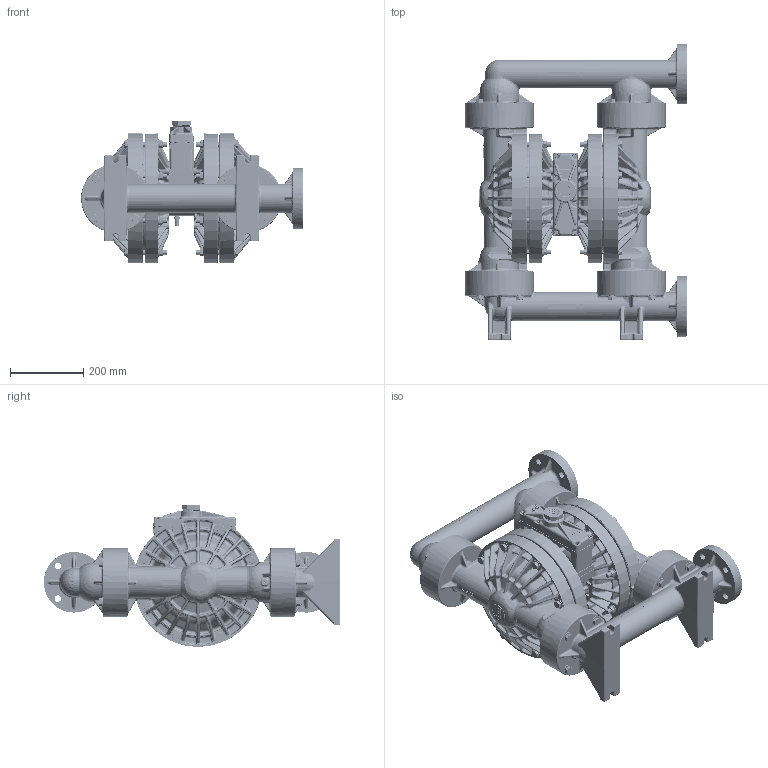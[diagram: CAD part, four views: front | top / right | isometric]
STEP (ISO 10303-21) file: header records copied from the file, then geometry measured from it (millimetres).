
FILE_DESCRIPTION (( 'STEP AP203' ), '1' );
FILE_NAME ('PS800_ADV_POLY_DIN.STEP', '2022-06-10T06:05:10', ( '' ), ( '' ), 'SwSTEP 2.0', 'SolidWorks 2019', '' );
FILE_SCHEMA (( 'CONFIG_CONTROL_DESIGN' ));
Products named in the file (1): PS800_ADV_POLY_DIN
Bounding box: 603.76 x 806.83 x 387.42 mm (x, y, z)
Volume: 40947760.9 mm3; surface area: 2488533.1 mm2
Topology: 1 solids, 1 shells, 16773 faces, 40196 edges, 23779 vertices
Faces by surface type: bspline 6091, plane 4853, cylinder 1946, cone 1428, torus 1399, sphere 1056
Entity records: 929282 total; most frequent: CARTESIAN_POINT 587384, ORIENTED_EDGE 79816, DIRECTION 59816, EDGE_CURVE 39908, VERTEX_POINT 23605, AXIS2_PLACEMENT_3D 23216, EDGE_LOOP 17323, ADVANCED_FACE 16768
